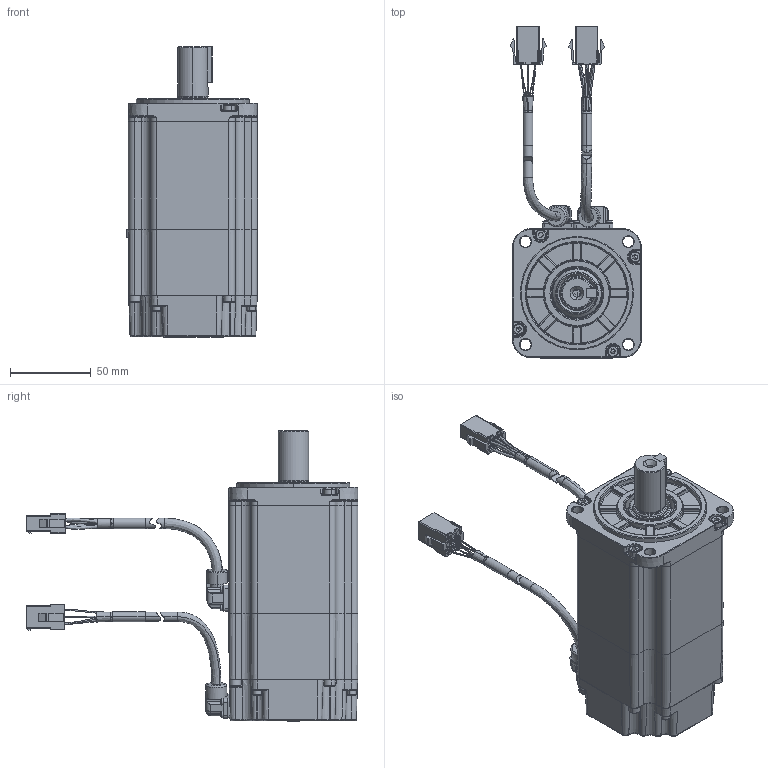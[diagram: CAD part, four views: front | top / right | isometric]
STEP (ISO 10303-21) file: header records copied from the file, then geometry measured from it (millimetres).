
FILE_DESCRIPTION (( 'STEP AP214' ), '1' );
FILE_NAME ('4030807-↓↓↓↓_80萇儂_DM1M-08A80↓8E_A0.STEP', '2020-05-05T02:05:45', ( '' ), ( '' ), 'SwSTEP 2.0', 'SolidWorks 2018', '' );
FILE_SCHEMA (( 'AUTOMOTIVE_DESIGN' ));
Length unit declared in the file: millimetre
Products named in the file (1): 4030807-↓↓↓↓_80萇儂_DM1M-08A80↓8E_A0
Bounding box: 81.15 x 205.5 x 179.7 mm (x, y, z)
Surface area: 78279.9 mm2 (no closed solid volume)
Topology: 0 solids, 65 shells, 1385 faces, 4651 edges, 3202 vertices
Faces by surface type: plane 608, cylinder 320, bspline 152, cone 150, torus 130, sphere 25
Entity records: 70943 total; most frequent: CARTESIAN_POINT 16749, DIRECTION 8042, ORIENTED_EDGE 7479, EDGE_CURVE 4621, VERTEX_POINT 3202, AXIS2_PLACEMENT_3D 2701, LINE 2640, VECTOR 2640
